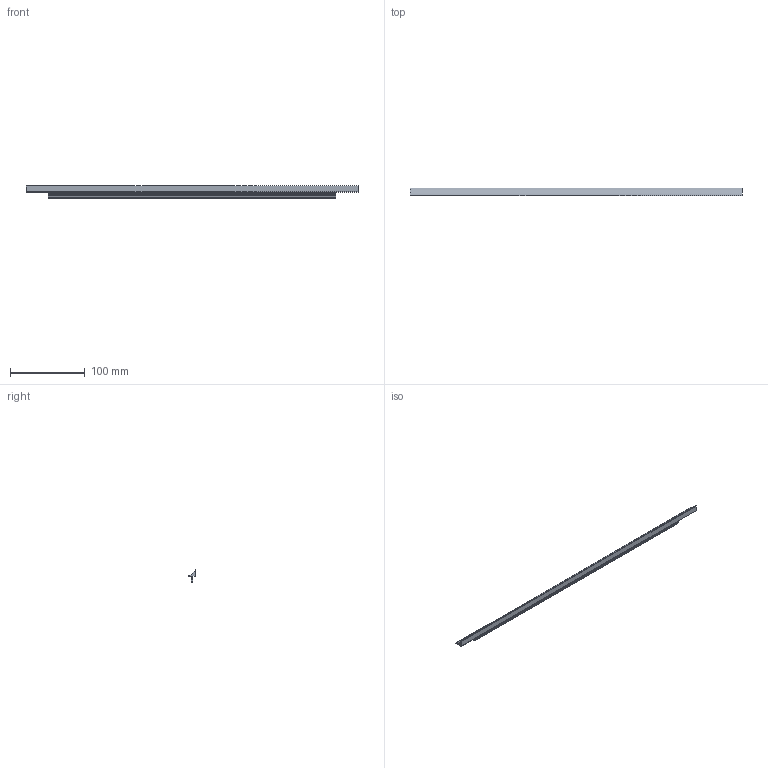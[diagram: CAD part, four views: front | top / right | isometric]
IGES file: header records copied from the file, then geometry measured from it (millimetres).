
Start section: Data from Parasolid IGES Translator 20.0.26, Copyright(c) 2006 Siemens P LM Software. All Rights Reserved.
Global section: file name: 9208099.igs; native system: By Siemens PLM Incorporated; preprocessor: XPlus GENERIC/IGES 20.0.26; author: Noname; organization: Noname; date: 20211115.182427; units: millimetre
Bounding box: 445 x 10.49 x 16.51 mm (x, y, z)
Surface area: 22107.8 mm2 (no closed solid volume)
Topology: 0 solids, 0 shells, 30 faces, 162 edges, 162 vertices
Faces by surface type: extrusion 25, revolution 5
